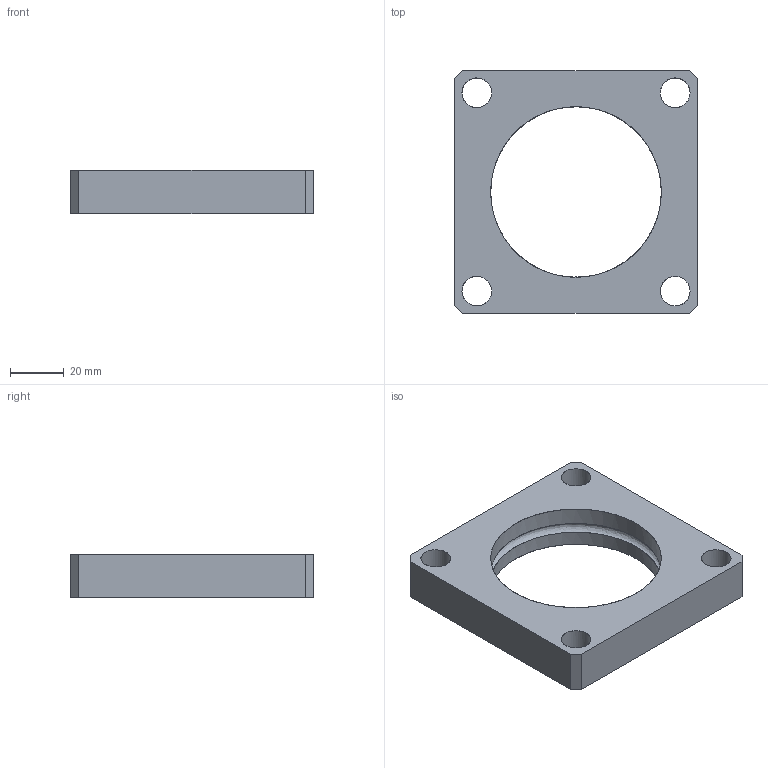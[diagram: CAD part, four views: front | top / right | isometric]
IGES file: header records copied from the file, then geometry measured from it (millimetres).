
Start section: VISI Layer Mapping Iges    VISI  0      LAYER_EMPTY  1      wwww  7      W_PD700  8      S_PD700  10     W_PD1000  11     S_PD1000  13     W_PD2000  14     S_PD2000  16     W_PD3000  17     S_PD3000  19     W_PD4000  20     S_PD4000  22     W_PD7000  23     S_PD7000  28     W_350  29     MS-350  30     MC-350  31     MP-350  32     MB-350  33     MH-350  34     MK-350  35     MPL-350  39     W_500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
Global section: file name: L:\cam_backup\钎霖前_沥府\颇况咆\mount_______\1500\MP-1500.igs; native system: VISI 16.0; preprocessor: 2.0; author: 11; organization: 0; date: 500.; units: mil
Bounding box: 90 x 90 x 16 mm (x, y, z)
Surface area: 20635.2 mm2 (no closed solid volume)
Topology: 0 solids, 0 shells, 17 faces, 279 edges, 276 vertices
Faces by surface type: bspline 17
